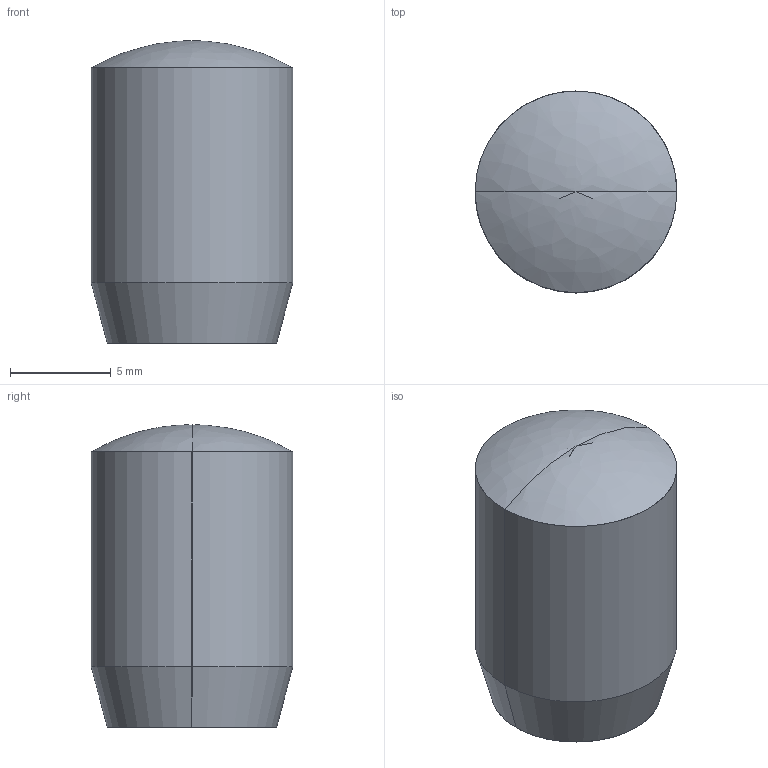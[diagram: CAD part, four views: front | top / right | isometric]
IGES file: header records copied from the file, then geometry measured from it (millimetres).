
Global section: file name: E:\UnigraphicsGraphicData\MISUMI_PRESS-PARTS\IGES\3d_ms10-15_00426_r00.igs; native system: NX V5.0; preprocessor: UGS NX IGES V5.0; author: MISUMI; date: 20110105.161512; units: millimetre
Bounding box: 10 x 10 x 15 mm (x, y, z)
Surface area: 564.3 mm2 (no closed solid volume)
Topology: 0 solids, 0 shells, 7 faces, 32 edges, 30 vertices
Faces by surface type: bspline 7
